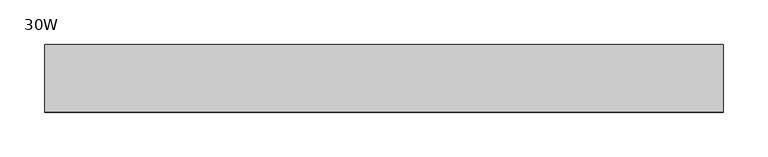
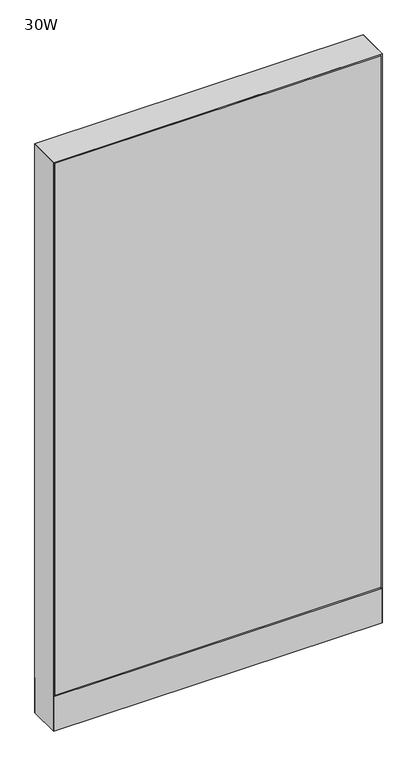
"""IFC4 building model written with IfcOpenShell, lengths in millimetres: furniture geometry, Steelcase - Montage - Frame - 55H - Enhanced Monolithic - Base Cavity : 30W."""

from ifc_helpers import new_model, si_unit, point, frame, frame_2d, origin, origin_with_axes, place, context, project, spatial, polyline, circle_curve, trimmed, segment, composite_curve, outline, extrude, faceted_brep, source, transform, mapped, element, save


def furniture_30w_2a5376d1(model_context):
    return source(origin(), model_context, "Body", "SolidModel", [
        extrude(outline(polyline([(758.825, 31.7500194), (3.175, 31.7500194), (3.175, 38.1000194), (758.825, 38.1000194), (758.825, 31.7500194)])), frame((0.0, 0.0, 92.075), z_axis=(0.0, 0.0, 1.0), x_axis=(1.0, 0.0, 0.0)), (0.0, 0.0, 1.0), 1303.3375),
        extrude(outline(polyline([(3.175, 31.7500194), (3.175, 38.1000194), (758.825, 38.1000194), (758.825, 31.7500194), (3.175, 31.7500194)])), frame((0.0, 0.0, 92.075), z_axis=(0.0, 0.0, 1.0), x_axis=(1.0, 0.0, 0.0)), (0.0, 0.0, 1.0), 1303.3375),
        extrude(outline(polyline([(3.175, -31.7500194), (758.825, -31.7500194), (758.825, -38.1000194), (3.175, -38.1000194), (3.175, -31.7500194)])), frame((0.0, 0.0, 92.075), z_axis=(0.0, 0.0, 1.0), x_axis=(1.0, 0.0, 0.0)), (0.0, 0.0, 1.0), 1303.3375),
        extrude(outline(polyline([(6.350003, -31.7499985), (755.649997, -31.7499985), (762.0, -38.1000015), (0.0, -38.1000015), (6.350003, -31.7499985)])), frame((0.0, 0.0, 4.064), z_axis=(0.0, 0.0, 1.0), x_axis=(1.0, 0.0, 0.0)), (0.0, 0.0, 1.0), 84.835997),
        extrude(outline(polyline([(6.3500002, 31.7500017), (0.0, 38.1000015), (762.0, 38.1000015), (755.6500002, 31.7500017), (6.3500002, 31.7500017)])), frame((0.0, 0.0, 4.064), z_axis=(0.0, 0.0, 1.0), x_axis=(1.0, 0.0, 0.0)), (0.0, 0.0, 1.0), 84.835997),
        faceted_brep([(762.0, -38.1000015, 1398.5875), (0.0, -38.1000015, 1398.5875), (6.3500484, -31.749953, 1392.2374516), (755.6499516, -31.749953, 1392.2374516), (6.3500484, 31.749953, 1392.2374516), (755.6499516, 31.749953, 1392.2374516), (0.0, 38.1000015, 1398.5875), (762.0, 38.1000015, 1398.5875)], [[[0, 1, 2, 3]], [[3, 2, 4, 5]], [[6, 7, 5, 4]], [[1, 0, 7, 6]], [[2, 1, 6, 4]], [[0, 3, 5, 7]]]),
        extrude(outline(composite_curve([segment(trimmed(circle_curve(frame_2d((44.45, 0.0)), 15.24), [point((29.21, 0.0))], [point((59.69, 0.0))], False, "CARTESIAN"), True, "CONTINUOUS"), segment(trimmed(circle_curve(frame_2d((44.45, 0.0)), 15.24), [point((59.69, 0.0))], [point((29.21, 0.0))], False, "CARTESIAN"), True, "CONTINUOUS")], self_intersect=False)), origin_with_axes(), (0.0, 0.0, 1.0), 4.064),
        extrude(outline(composite_curve([segment(trimmed(circle_curve(frame_2d((717.55, 0.0)), 15.24), [point((702.31, 0.0))], [point((732.79, 0.0))], False, "CARTESIAN"), True, "CONTINUOUS"), segment(trimmed(circle_curve(frame_2d((717.55, 0.0)), 15.24), [point((732.79, 0.0))], [point((702.31, 0.0))], False, "CARTESIAN"), True, "CONTINUOUS")], self_intersect=False)), origin_with_axes(), (0.0, 0.0, 1.0), 4.064),
        faceted_brep([(762.0, -38.1000106, 4.064), (762.0, 38.1000015, 4.064), (762.0, 38.1000015, 1398.5875), (762.0, -38.1000106, 1398.5874637), (0.0, 38.1000015, 4.064), (0.0, -38.1000015, 4.064), (0.0, -38.1000015, 1398.5875), (0.0, 38.1000015, 1398.5875), (755.6499879, 31.7500017, 606.425), (6.35, 31.7500017, 606.425), (6.3499998, 31.7500017, 619.125), (755.6499879, 31.7500017, 619.125), (6.35, -31.7499985, 619.125), (755.6499879, -31.7499985, 619.125), (6.350003, -31.7499985, 606.425), (755.6499879, -31.7499985, 606.425), (6.35, 31.7500015, 4.064), (6.35, -31.7500015, 4.064), (755.6499879, 31.7499894, 4.064), (755.6499879, -31.7499985, 4.064), (6.35, 31.7500015, 1392.2375), (6.35, -31.7500015, 1392.2375), (755.6499879, -31.7499985, 1392.2374516), (755.6499879, 31.7499895, 1392.2374516)], [[[0, 1, 2, 3]], [[4, 5, 6, 7]], [[8, 9, 10, 11]], [[11, 10, 12, 13]], [[13, 12, 14, 15]], [[9, 8, 15, 14]], [[16, 17, 5, 4]], [[18, 1, 0, 19]], [[16, 4, 7, 20, 10, 9]], [[5, 17, 14, 12, 21, 6]], [[12, 10, 20, 21]], [[17, 16, 9, 14]], [[11, 13, 22, 23]], [[18, 19, 15, 8]], [[19, 0, 3, 22, 13, 15]], [[1, 18, 8, 11, 23, 2]], [[7, 6, 21, 20]], [[3, 2, 23, 22]]]),
    ])


if __name__ == "__main__":
    model = new_model("IFC4")
    model_context = context("Model", 3, world=origin())
    ifc_project = project(units=[si_unit("LENGTHUNIT", "METRE", prefix="MILLI")], contexts=[model_context])
    site = spatial("IfcSite", under=ifc_project)
    building = spatial("IfcBuilding", under=site)
    placement = place(None, origin())
    furniture_30w_shape = furniture_30w_2a5376d1(model_context)
    element("IfcFurniture", 1, ObjectType="Steelcase - Montage - Frame - 55H - Enhanced Monolithic - Base Cavity : 30W", at=placement, inside=building, context=model_context, shape_type="MappedRepresentation", body=[
        mapped(furniture_30w_shape, transform((0.0, 0.0, 0.0), x_axis=(1.0, 0.0, 0.0), y_axis=(0.0, 1.0, 0.0), z_axis=(0.0, 0.0, 1.0))),
    ])
    save(model, "model.ifc")
